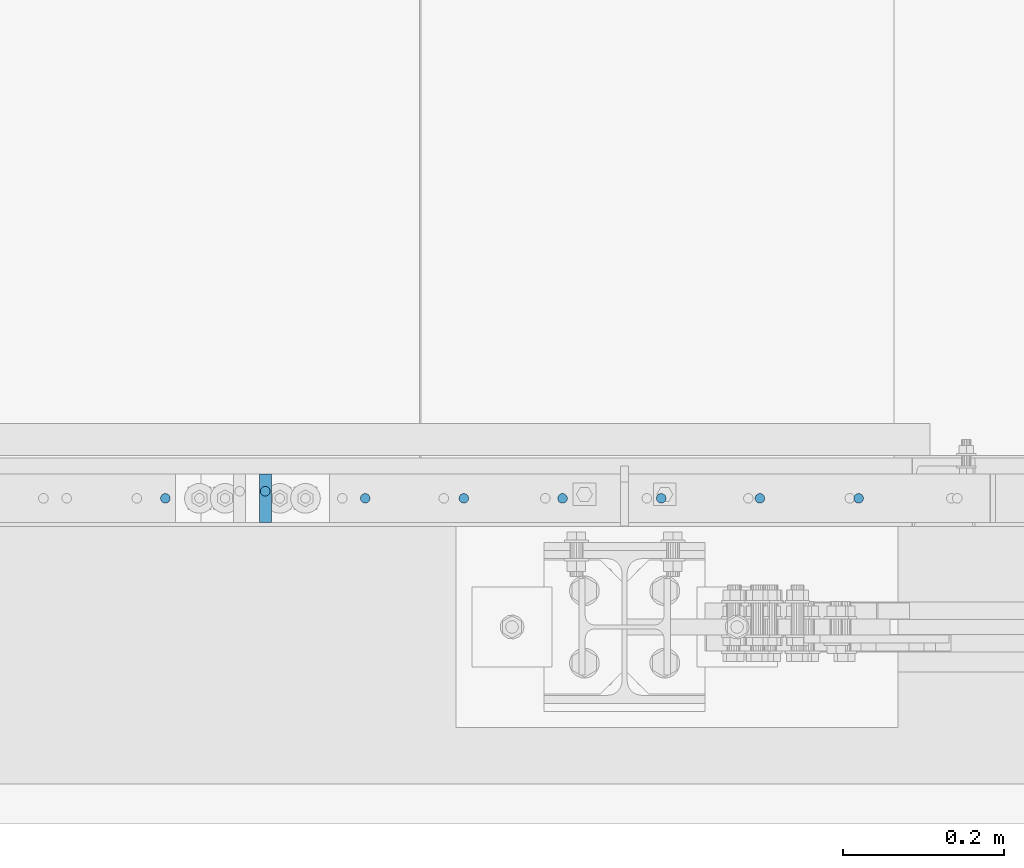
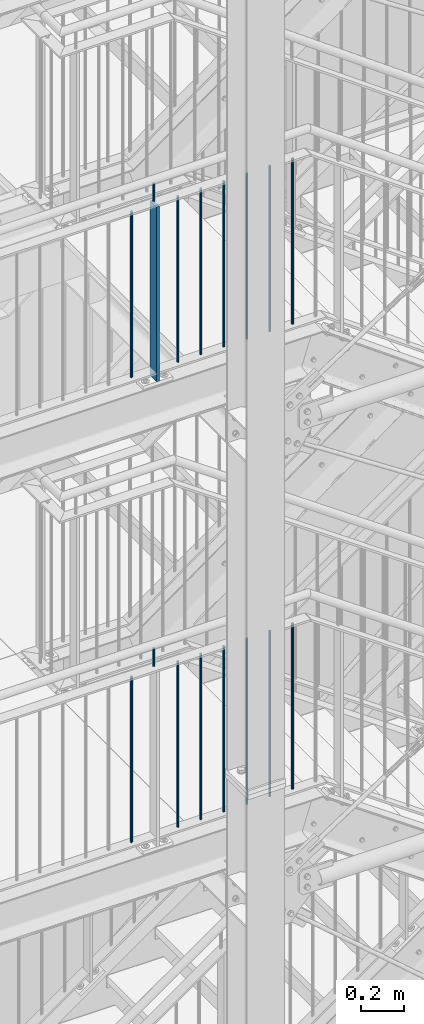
# One storey, part 12 of 831: 17 columns.
"""IFC2X3 building model written with IfcOpenShell, lengths in millimetres."""

from ifc_helpers import new_model, entity, si_unit, converted_unit, frame, origin, origin_with_axes, origin_2d, place, context, project, spatial, rectangle, circle, extrude, clip, halfspace, material, element, save


model = new_model("IFC2X3")

# Units and contexts
model_context = context("Model", 3, precision=1e-09, world=origin_with_axes())
ifc_project = project(units=[si_unit("LENGTHUNIT", "METRE", prefix="MILLI"), si_unit("AREAUNIT", "SQUARE_METRE"), si_unit("VOLUMEUNIT", "CUBIC_METRE"), converted_unit("PLANEANGLEUNIT", "DEGREE", entity("IfcPlaneAngleMeasure", 0.01745329), si_unit("PLANEANGLEUNIT", "RADIAN"), dimensions=[0, 0, 0, 0, 0, 0, 0])], contexts=[model_context])

# Site, building, storey
site_placement = place(None, origin_with_axes())
site = spatial("IfcSite", under=ifc_project, at=site_placement, Name="Site", CompositionType="ELEMENT")
building_placement = place(site_placement, origin_with_axes())
building = spatial("IfcBuilding", under=site, at=building_placement, Name="Struktur 1", CompositionType="ELEMENT")
storey_placement = place(building_placement, origin_with_axes())
storey = spatial("IfcBuildingStorey", under=building, at=storey_placement, Name="Default Storey", CompositionType="ELEMENT", Elevation=0.0)

# Columns
ifc_material = material(Name="S235JR")
column_1_placement = place(None, frame((5147.791807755, 4526.736971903, 8342.285281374), z_axis=(0.0, 0.0, 1.0), x_axis=(-1.0, 0.0, 0.0)))
element("IfcColumn", 1, at=column_1_placement, inside=storey, material=ifc_material, Name="Railing_Picket_Landing#77", ObjectType="Railing_Picket_Landing#77", context=model_context, shape_type="Clipping", body=[
    clip(clip(extrude(circle(Radius=6.0, at=origin_2d()), origin(), (0.0, 0.0, -1.0), 965.770562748), halfspace(frame((5147.791807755, 4526.736971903, -13.486281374), z_axis=(0.0, 0.0, -1.0), x_axis=(1.0, 0.0, 0.0)), True)), halfspace(frame((5147.791807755, 4526.736971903, -952.284281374), z_axis=(0.0, 0.0, 1.0), x_axis=(-1.0, 0.0, 0.0)), True)),
])
column_2_placement = place(None, frame((5025.041783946, 4526.736971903, 8342.285281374), z_axis=(0.0, 0.0, 1.0), x_axis=(-1.0, 0.0, 0.0)))
element("IfcColumn", 2, at=column_2_placement, inside=storey, material=ifc_material, Name="Railing_Picket_Landing#78", ObjectType="Railing_Picket_Landing#78", context=model_context, shape_type="Clipping", body=[
    clip(clip(extrude(circle(Radius=6.0, at=origin_2d()), origin(), (0.0, 0.0, -1.0), 965.770562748), halfspace(frame((5025.041783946, 4526.736971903, -13.486281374), z_axis=(0.0, 0.0, -1.0), x_axis=(1.0, 0.0, 0.0)), True)), halfspace(frame((5025.041783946, 4526.736971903, -952.284281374), z_axis=(0.0, 0.0, 1.0), x_axis=(-1.0, 0.0, 0.0)), True)),
])
column_3_placement = place(None, frame((4902.291760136, 4526.736971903, 8342.285281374), z_axis=(0.0, 0.0, 1.0), x_axis=(-1.0, 0.0, 0.0)))
element("IfcColumn", 3, at=column_3_placement, inside=storey, material=ifc_material, Name="Railing_Picket_Landing#79", ObjectType="Railing_Picket_Landing#79", context=model_context, shape_type="Clipping", body=[
    clip(clip(extrude(circle(Radius=6.0, at=origin_2d()), origin(), (0.0, 0.0, -1.0), 965.770562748), halfspace(frame((4902.291760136, 4526.736971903, -13.486281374), z_axis=(0.0, 0.0, -1.0), x_axis=(1.0, 0.0, 0.0)), True)), halfspace(frame((4902.291760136, 4526.736971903, -952.284281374), z_axis=(0.0, 0.0, 1.0), x_axis=(-1.0, 0.0, 0.0)), True)),
])
column_4_placement = place(None, frame((4779.541736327, 4526.736971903, 8342.285281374), z_axis=(0.0, 0.0, 1.0), x_axis=(-1.0, 0.0, 0.0)))
element("IfcColumn", 4, at=column_4_placement, inside=storey, material=ifc_material, Name="Railing_Picket_Landing#80", ObjectType="Railing_Picket_Landing#80", context=model_context, shape_type="Clipping", body=[
    clip(clip(extrude(circle(Radius=6.0, at=origin_2d()), origin(), (0.0, 0.0, -1.0), 965.770562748), halfspace(frame((4779.541736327, 4526.736971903, -13.486281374), z_axis=(0.0, 0.0, -1.0), x_axis=(1.0, 0.0, 0.0)), True)), halfspace(frame((4779.541736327, 4526.736971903, -952.284281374), z_axis=(0.0, 0.0, 1.0), x_axis=(-1.0, 0.0, 0.0)), True)),
])
column_5_placement = place(None, frame((4656.791712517, 4526.736971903, 8342.285281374), z_axis=(0.0, 0.0, 1.0), x_axis=(-1.0, 0.0, 0.0)))
element("IfcColumn", 5, at=column_5_placement, inside=storey, material=ifc_material, Name="Railing_Picket_Landing#81", ObjectType="Railing_Picket_Landing#81", context=model_context, shape_type="Clipping", body=[
    clip(clip(extrude(circle(Radius=6.0, at=origin_2d()), origin(), (0.0, 0.0, -1.0), 965.770562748), halfspace(frame((4656.791712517, 4526.736971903, -13.486281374), z_axis=(0.0, 0.0, -1.0), x_axis=(1.0, 0.0, 0.0)), True)), halfspace(frame((4656.791712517, 4526.736971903, -952.284281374), z_axis=(0.0, 0.0, 1.0), x_axis=(-1.0, 0.0, 0.0)), True)),
])
column_6_placement = place(None, frame((4534.041688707, 4526.736971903, 8342.285281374), z_axis=(0.0, 0.0, 1.0), x_axis=(-1.0, 0.0, 0.0)))
element("IfcColumn", 6, at=column_6_placement, inside=storey, material=ifc_material, Name="Railing_Picket_Landing#82", ObjectType="Railing_Picket_Landing#82", context=model_context, shape_type="Clipping", body=[
    clip(clip(extrude(circle(Radius=6.0, at=origin_2d()), origin(), (0.0, 0.0, -1.0), 965.770562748), halfspace(frame((4534.041688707, 4526.736971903, -13.486281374), z_axis=(0.0, 0.0, -1.0), x_axis=(1.0, 0.0, 0.0)), True)), halfspace(frame((4534.041688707, 4526.736971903, -952.284281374), z_axis=(0.0, 0.0, 1.0), x_axis=(-1.0, 0.0, 0.0)), True)),
])
column_7_placement = place(None, frame((4285.541688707, 4526.736971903, 8342.285281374), z_axis=(0.0, 0.0, 1.0), x_axis=(-1.0, 0.0, 0.0)))
element("IfcColumn", 7, at=column_7_placement, inside=storey, material=ifc_material, Name="Railing_Picket_Landing#83", ObjectType="Railing_Picket_Landing#83", context=model_context, shape_type="Clipping", body=[
    clip(clip(extrude(circle(Radius=6.0, at=origin_2d()), origin(), (0.0, 0.0, -1.0), 965.770562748), halfspace(frame((4285.541688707, 4526.736971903, -13.486281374), z_axis=(0.0, 0.0, -1.0), x_axis=(1.0, 0.0, 0.0)), True)), halfspace(frame((4285.541688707, 4526.736971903, -952.284281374), z_axis=(0.0, 0.0, 1.0), x_axis=(-1.0, 0.0, 0.0)), True)),
])
column_8_placement = place(None, frame((4409.791688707, 4535.536971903, 8447.285281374), z_axis=(0.0, 0.0, 1.0), x_axis=(0.0, 1.0, 0.0)))
element("IfcColumn", 8, at=column_8_placement, inside=storey, material=ifc_material, Name="Bar#12", ObjectType="Bar#12", context=model_context, shape_type="Clipping", body=[
    clip(clip(extrude(circle(Radius=6.0, at=origin_2d()), origin(), (0.0, 0.0, -1.0), 116.970562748), halfspace(frame((-4535.536971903, 4409.791688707, -8.486281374), z_axis=(0.0, 0.0, -1.0), x_axis=(0.0, 1.0, 0.0)), True)), halfspace(frame((-4535.536971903, 4409.791688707, -108.484281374), z_axis=(0.0, 0.0, 1.0), x_axis=(0.0, -1.0, 0.0)), True)),
])
column_9_placement = place(None, frame((5147.791807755, 4526.736971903, 10974.285281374), z_axis=(0.0, 0.0, 1.0), x_axis=(-1.0, 0.0, 0.0)))
element("IfcColumn", 9, at=column_9_placement, inside=storey, material=ifc_material, Name="Railing_Picket_Landing#77", ObjectType="Railing_Picket_Landing#77", context=model_context, shape_type="Clipping", body=[
    clip(clip(extrude(circle(Radius=6.0, at=origin_2d()), origin(), (0.0, 0.0, -1.0), 965.770562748), halfspace(frame((5147.791807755, 4526.736971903, -13.486281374), z_axis=(0.0, 0.0, -1.0), x_axis=(1.0, 0.0, 0.0)), True)), halfspace(frame((5147.791807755, 4526.736971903, -952.284281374), z_axis=(0.0, 0.0, 1.0), x_axis=(-1.0, 0.0, 0.0)), True)),
])
column_10_placement = place(None, frame((5025.041783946, 4526.736971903, 10974.285281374), z_axis=(0.0, 0.0, 1.0), x_axis=(-1.0, 0.0, 0.0)))
element("IfcColumn", 10, at=column_10_placement, inside=storey, material=ifc_material, Name="Railing_Picket_Landing#78", ObjectType="Railing_Picket_Landing#78", context=model_context, shape_type="Clipping", body=[
    clip(clip(extrude(circle(Radius=6.0, at=origin_2d()), origin(), (0.0, 0.0, -1.0), 965.770562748), halfspace(frame((5025.041783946, 4526.736971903, -13.486281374), z_axis=(0.0, 0.0, -1.0), x_axis=(1.0, 0.0, 0.0)), True)), halfspace(frame((5025.041783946, 4526.736971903, -952.284281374), z_axis=(0.0, 0.0, 1.0), x_axis=(-1.0, 0.0, 0.0)), True)),
])
column_11_placement = place(None, frame((4902.291760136, 4526.736971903, 10974.285281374), z_axis=(0.0, 0.0, 1.0), x_axis=(-1.0, 0.0, 0.0)))
element("IfcColumn", 11, at=column_11_placement, inside=storey, material=ifc_material, Name="Railing_Picket_Landing#79", ObjectType="Railing_Picket_Landing#79", context=model_context, shape_type="Clipping", body=[
    clip(clip(extrude(circle(Radius=6.0, at=origin_2d()), origin(), (0.0, 0.0, -1.0), 965.770562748), halfspace(frame((4902.291760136, 4526.736971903, -13.486281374), z_axis=(0.0, 0.0, -1.0), x_axis=(1.0, 0.0, 0.0)), True)), halfspace(frame((4902.291760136, 4526.736971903, -952.284281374), z_axis=(0.0, 0.0, 1.0), x_axis=(-1.0, 0.0, 0.0)), True)),
])
column_12_placement = place(None, frame((4779.541736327, 4526.736971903, 10974.285281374), z_axis=(0.0, 0.0, 1.0), x_axis=(-1.0, 0.0, 0.0)))
element("IfcColumn", 12, at=column_12_placement, inside=storey, material=ifc_material, Name="Railing_Picket_Landing#80", ObjectType="Railing_Picket_Landing#80", context=model_context, shape_type="Clipping", body=[
    clip(clip(extrude(circle(Radius=6.0, at=origin_2d()), origin(), (0.0, 0.0, -1.0), 965.770562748), halfspace(frame((4779.541736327, 4526.736971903, -13.486281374), z_axis=(0.0, 0.0, -1.0), x_axis=(1.0, 0.0, 0.0)), True)), halfspace(frame((4779.541736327, 4526.736971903, -952.284281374), z_axis=(0.0, 0.0, 1.0), x_axis=(-1.0, 0.0, 0.0)), True)),
])
column_13_placement = place(None, frame((4656.791712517, 4526.736971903, 10974.285281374), z_axis=(0.0, 0.0, 1.0), x_axis=(-1.0, 0.0, 0.0)))
element("IfcColumn", 13, at=column_13_placement, inside=storey, material=ifc_material, Name="Railing_Picket_Landing#81", ObjectType="Railing_Picket_Landing#81", context=model_context, shape_type="Clipping", body=[
    clip(clip(extrude(circle(Radius=6.0, at=origin_2d()), origin(), (0.0, 0.0, -1.0), 965.770562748), halfspace(frame((4656.791712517, 4526.736971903, -13.486281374), z_axis=(0.0, 0.0, -1.0), x_axis=(1.0, 0.0, 0.0)), True)), halfspace(frame((4656.791712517, 4526.736971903, -952.284281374), z_axis=(0.0, 0.0, 1.0), x_axis=(-1.0, 0.0, 0.0)), True)),
])
column_14_placement = place(None, frame((4534.041688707, 4526.736971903, 10974.285281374), z_axis=(0.0, 0.0, 1.0), x_axis=(-1.0, 0.0, 0.0)))
element("IfcColumn", 14, at=column_14_placement, inside=storey, material=ifc_material, Name="Railing_Picket_Landing#82", ObjectType="Railing_Picket_Landing#82", context=model_context, shape_type="Clipping", body=[
    clip(clip(extrude(circle(Radius=6.0, at=origin_2d()), origin(), (0.0, 0.0, -1.0), 965.770562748), halfspace(frame((4534.041688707, 4526.736971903, -13.486281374), z_axis=(0.0, 0.0, -1.0), x_axis=(1.0, 0.0, 0.0)), True)), halfspace(frame((4534.041688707, 4526.736971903, -952.284281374), z_axis=(0.0, 0.0, 1.0), x_axis=(-1.0, 0.0, 0.0)), True)),
])
column_15_placement = place(None, frame((4285.541688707, 4526.736971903, 10974.285281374), z_axis=(0.0, 0.0, 1.0), x_axis=(-1.0, 0.0, 0.0)))
element("IfcColumn", 15, at=column_15_placement, inside=storey, material=ifc_material, Name="Railing_Picket_Landing#83", ObjectType="Railing_Picket_Landing#83", context=model_context, shape_type="Clipping", body=[
    clip(clip(extrude(circle(Radius=6.0, at=origin_2d()), origin(), (0.0, 0.0, -1.0), 965.770562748), halfspace(frame((4285.541688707, 4526.736971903, -13.486281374), z_axis=(0.0, 0.0, -1.0), x_axis=(1.0, 0.0, 0.0)), True)), halfspace(frame((4285.541688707, 4526.736971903, -952.284281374), z_axis=(0.0, 0.0, 1.0), x_axis=(-1.0, 0.0, 0.0)), True)),
])
column_16_placement = place(None, frame((4409.791688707, 4535.536971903, 11079.285281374), z_axis=(0.0, 0.0, 1.0), x_axis=(0.0, 1.0, 0.0)))
element("IfcColumn", 16, at=column_16_placement, inside=storey, material=ifc_material, Name="Bar#12", ObjectType="Bar#12", context=model_context, shape_type="Clipping", body=[
    clip(clip(extrude(circle(Radius=6.0, at=origin_2d()), origin(), (0.0, 0.0, -1.0), 116.970562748), halfspace(frame((-4535.536971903, 4409.791688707, -8.486281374), z_axis=(0.0, 0.0, -1.0), x_axis=(0.0, 1.0, 0.0)), True)), halfspace(frame((-4535.536971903, 4409.791688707, -108.484281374), z_axis=(0.0, 0.0, 1.0), x_axis=(0.0, -1.0, 0.0)), True)),
])
column_17_placement = place(None, frame((4409.791688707, 4526.736971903, 10991.723292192), z_axis=(0.0, 0.0, 1.0), x_axis=(-1.0, 0.0, 0.0)))
element("IfcColumn", 17, at=column_17_placement, inside=storey, material=ifc_material, Name="Railing_Post_Landing#12", ObjectType="Railing_Post_Landing#12", context=model_context, shape_type="Clipping", body=[
    clip(clip(extrude(rectangle(XDim=15.0, YDim=60.0, at=origin_2d()), origin(), (0.0, 0.0, -1.0), 1070.646584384), halfspace(frame((4409.791688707, 4526.736971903, -1019.722292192), z_axis=(0.0, 0.0, 1.0), x_axis=(-1.0, 0.0, 0.0)), True)), halfspace(frame((4409.791688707, 4526.736971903, -30.924292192), z_axis=(0.0, 0.0, -1.0), x_axis=(1.0, 0.0, 0.0)), True)),
])

save(model, "model.ifc")
